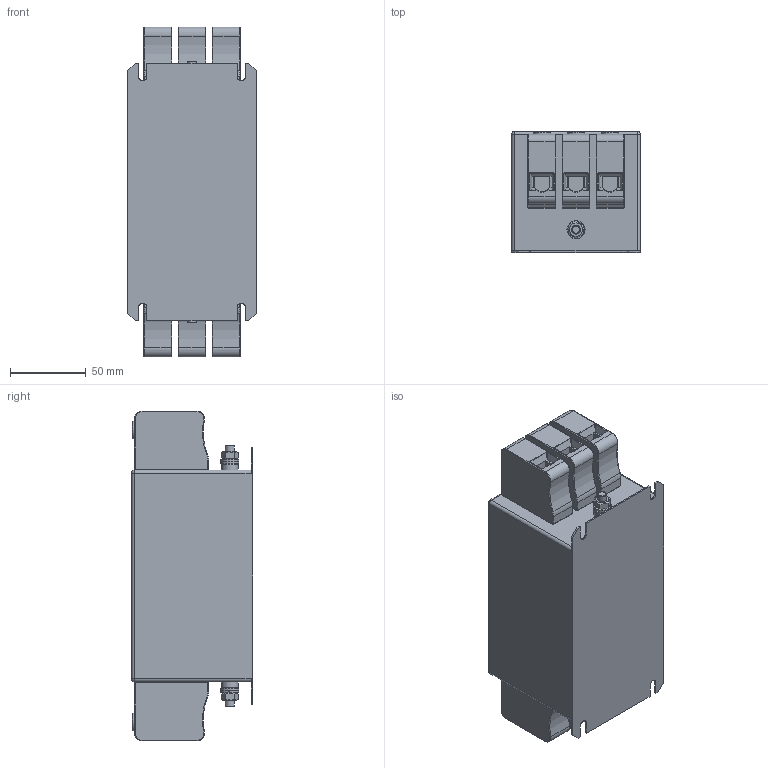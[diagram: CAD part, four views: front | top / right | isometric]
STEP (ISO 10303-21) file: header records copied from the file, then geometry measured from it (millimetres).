
FILE_DESCRIPTION((''),'2;1');
FILE_NAME('L:\INVENTOR_Projektedaten\HousingDesign\FN3270H-50-34.stp','2012-09-03T10:22:22',('Samuel.Meier'),(''),'Autodesk Inventor 2010','Autodesk Inventor 2010','');
FILE_SCHEMA(('AUTOMOTIVE_DESIGN { 1 2 10303 214 0 1 1 1 }'));
Length unit declared in the file: millimetre
Products named in the file (1): Bauteil9
Bounding box: 85 x 80 x 218 mm (x, y, z)
Volume: 1145315.4 mm3; surface area: 100314.8 mm2
Topology: 1 solids, 1 shells, 622 faces, 1506 edges, 886 vertices
Faces by surface type: plane 238, cylinder 216, bspline 66, torus 66, sphere 28, cone 8
Full cylindrical faces by diameter (mm): 6 x4, 6.4 x2, 7 x6, 11.05 x2, 11.6 x6, 12 x2
Entity records: 19489 total; most frequent: CARTESIAN_POINT 4676, DIRECTION 3042, ORIENTED_EDGE 2840, EDGE_CURVE 1420, AXIS2_PLACEMENT_3D 1161, VERTEX_POINT 882, VECTOR 720, LINE 720
